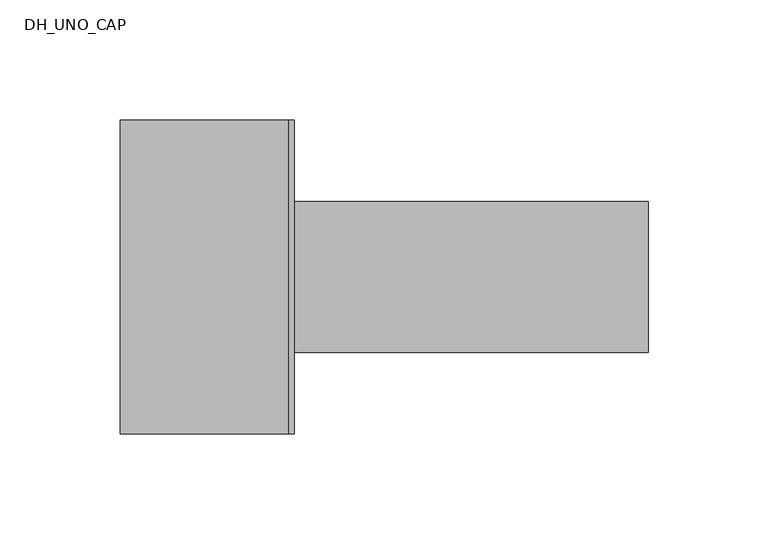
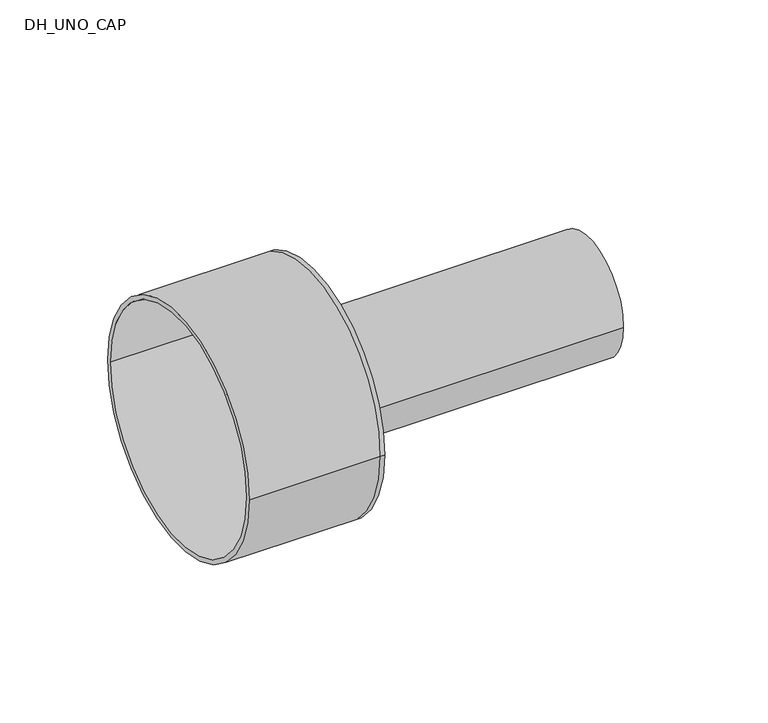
"""IFC4 building model written with IfcOpenShell, lengths in millimetres: pipe fitting geometry, DH_UNO_CAP : RAUTHERMEX UNO 7.4 DW - Solid Cap."""

from ifc_helpers import new_model, si_unit, point, frame, origin, origin_2d, place, context, project, spatial, polyline, circle_curve, trimmed, segment, composite_curve, outline, extrude, source, transform, mapped, element, save
from ifc_brep_helpers import plane_surface, cylinder_surface, revolved_surface, advanced_brep


def dh_uno_cap_65efb41c(model_context):
    return source(origin(), model_context, "Body", "SolidModel", [
        extrude(outline(composite_curve([segment(trimmed(circle_curve(origin_2d(), 31.5), [point((-31.5, 0.0))], [point((31.5, 0.0))], False, "CARTESIAN"), True, "CONTINUOUS"), segment(trimmed(circle_curve(origin_2d(), 31.5), [point((31.5, 0.0))], [point((-31.5, 0.0))], False, "CARTESIAN"), True, "CONTINUOUS")], self_intersect=False), holes=[composite_curve([segment(trimmed(circle_curve(origin_2d(), 22.9), [point((-22.9, 0.0))], [point((22.9, 0.0))], True, "CARTESIAN"), True, "CONTINUOUS"), segment(trimmed(circle_curve(origin_2d(), 22.9), [point((22.9, 0.0))], [point((-22.9, 0.0))], True, "CARTESIAN"), True, "CONTINUOUS")], self_intersect=False)]), frame((0.0, 0.0, 0.0), z_axis=(1.0, 0.0, 0.0), x_axis=(0.0, 1.0, 0.0)), (0.0, 0.0, 1.0), 150.0),
        advanced_brep(
        [(-70.0, -65.5, 0.0), (-70.0, 65.5, 0.0), (-70.0, -63.0, 0.0), (-70.0, 63.0, 0.0), (0.0, -63.0, 0.0), (0.0, 63.0, 0.0), (0.0, -65.5, 0.0), (0.0, 65.5, 0.0), (0.0, 31.5, 0.0), (0.0, -31.5, 0.0), (2.5, -65.5, 0.0), (2.5, 65.5, 0.0), (2.5, -31.5, 0.0), (2.5, 31.5, 0.0)],
        [
            (0, 1, circle_curve(frame((-70.0, 0.0, 0.0), z_axis=(-1.0, 0.0, 0.0), x_axis=(0.0, 1.0, 0.0)), 65.5)),
            (1, 0, circle_curve(frame((-70.0, 0.0, 0.0), z_axis=(-1.0, 0.0, 0.0), x_axis=(0.0, 1.0, 0.0)), 65.5)),
            (2, 3, circle_curve(frame((-70.0, 0.0, 0.0), z_axis=(1.0, 0.0, 0.0), x_axis=(0.0, 1.0, 0.0)), 63.0)),
            (3, 2, circle_curve(frame((-70.0, 0.0, 0.0), z_axis=(1.0, 0.0, 0.0), x_axis=(0.0, 1.0, 0.0)), 63.0)),
            (2, 4),
            (4, 5, circle_curve(frame((0.0, 0.0, 0.0), z_axis=(1.0, 0.0, 0.0), x_axis=(0.0, 1.0, 0.0)), 63.0)),
            (5, 3),
            (5, 4, circle_curve(frame((0.0, 0.0, 0.0), z_axis=(1.0, 0.0, 0.0), x_axis=(0.0, 1.0, 0.0)), 63.0)),
            (0, 6),
            (6, 7, circle_curve(frame((0.0, 0.0, 0.0), z_axis=(-1.0, 0.0, 0.0), x_axis=(0.0, 1.0, 0.0)), 65.5)),
            (7, 1),
            (7, 6, circle_curve(frame((0.0, 0.0, 0.0), z_axis=(-1.0, 0.0, 0.0), x_axis=(0.0, 1.0, 0.0)), 65.5)),
            (8, 9, circle_curve(frame((0.0, 0.0, 0.0), z_axis=(1.0, 0.0, 0.0), x_axis=(0.0, 1.0, 0.0)), 31.5)),
            (9, 8, circle_curve(frame((0.0, 0.0, 0.0), z_axis=(1.0, 0.0, 0.0), x_axis=(0.0, 1.0, 0.0)), 31.5)),
            (10, 11, circle_curve(frame((2.5, 0.0, 0.0), z_axis=(1.0, 0.0, 0.0), x_axis=(0.0, 1.0, 0.0)), 65.5)),
            (11, 10, circle_curve(frame((2.5, 0.0, 0.0), z_axis=(1.0, 0.0, 0.0), x_axis=(0.0, 1.0, 0.0)), 65.5)),
            (12, 13, circle_curve(frame((2.5, 0.0, 0.0), z_axis=(-1.0, 0.0, 0.0), x_axis=(0.0, 1.0, 0.0)), 31.5)),
            (13, 12, circle_curve(frame((2.5, 0.0, 0.0), z_axis=(-1.0, 0.0, 0.0), x_axis=(0.0, 1.0, 0.0)), 31.5)),
            (11, 7),
            (6, 10),
            (8, 13),
            (12, 9),
        ],
        [
            plane_surface(frame((-70.0, 0.0, 0.0), z_axis=(-1.0, 0.0, 0.0), x_axis=(0.0, 0.0, 1.0))),
            revolved_surface(polyline([(0.0, 63.0, 0.0), (-70.0, 63.0, 0.0)]), (-70.0, 0.0, 0.0), (1.0, 0.0, 0.0)),
            cylinder_surface(frame((-70.0, 0.0, 0.0), z_axis=(-1.0, 0.0, 0.0), x_axis=(0.0, 1.0, 0.0)), 65.5),
            plane_surface(frame((0.0, 0.0, 0.0), z_axis=(-1.0, 0.0, 0.0), x_axis=(0.0, 0.0, 1.0))),
            plane_surface(frame((2.5, 0.0, 0.0), z_axis=(1.0, 0.0, 0.0), x_axis=(0.0, 0.0, 1.0))),
            cylinder_surface(frame((0.0, 0.0, 0.0), z_axis=(-1.0, 0.0, 0.0), x_axis=(0.0, 1.0, 0.0)), 65.5),
            revolved_surface(polyline([(0.0, 31.5, 0.0), (2.5, 31.5, 0.0)]), (0.0, 0.0, 0.0), (-1.0, 0.0, 0.0)),
        ],
        [
            (0, [[1, 2], [3, 4]]),
            (1, [[-3, 5, 6, 7]]),
            (1, [[-4, -7, 8, -5]]),
            (2, [[-1, 9, 10, 11]]),
            (2, [[-2, -11, 12, -9]]),
            (3, [[-6, -8], [13, 14]]),
            (4, [[15, 16], [17, 18]]),
            (5, [[-16, 19, -10, 20]]),
            (5, [[-15, -20, -12, -19]]),
            (6, [[21, -17, 22, -13]]),
            (6, [[-21, -14, -22, -18]]),
        ],
    ),
    ])


if __name__ == "__main__":
    model = new_model("IFC4")
    model_context = context("Model", 3, world=origin())
    ifc_project = project(units=[si_unit("LENGTHUNIT", "METRE", prefix="MILLI")], contexts=[model_context])
    site = spatial("IfcSite", under=ifc_project)
    building = spatial("IfcBuilding", under=site)
    placement = place(None, origin())
    dh_uno_cap_shape = dh_uno_cap_65efb41c(model_context)
    element("IfcPipeFitting", 1, ObjectType="DH_UNO_CAP : RAUTHERMEX UNO 7.4 DW - Solid Cap", at=placement, inside=building, context=model_context, shape_type="MappedRepresentation", body=[
        mapped(dh_uno_cap_shape, transform((0.0, 0.0, 0.0), x_axis=(1.0, 0.0, 0.0), y_axis=(0.0, 1.0, 0.0), z_axis=(0.0, 0.0, 1.0))),
    ])
    save(model, "model.ifc")
